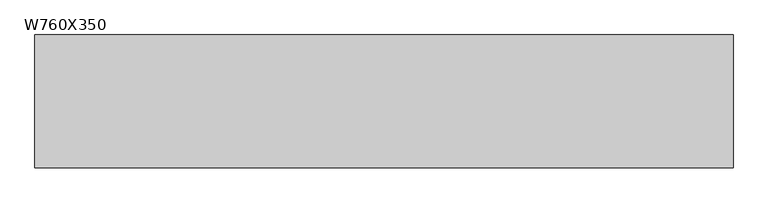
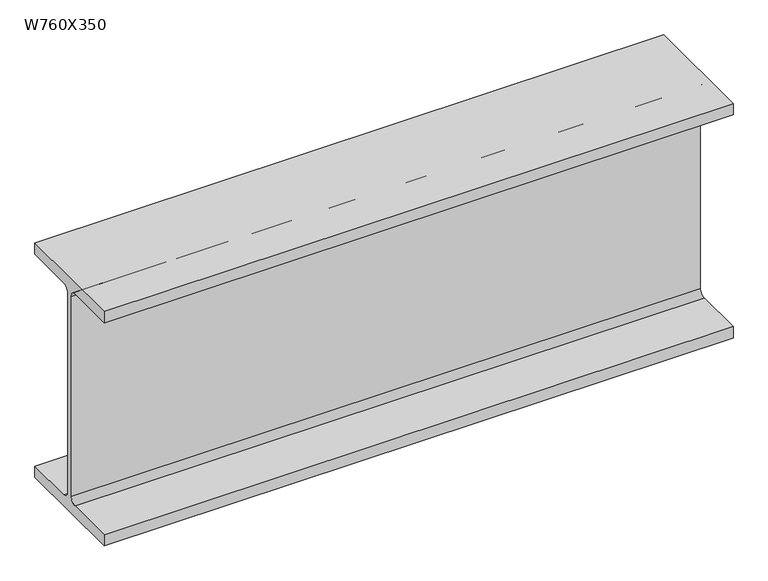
"""IFC4 building model written with IfcOpenShell, lengths in millimetres: beam geometry, M_W Shapes : W760X350."""

from ifc_helpers import new_model, si_unit, point, frame, frame_2d, origin, place, context, project, spatial, polyline, circle_curve, trimmed, segment, composite_curve, outline, extrude, source, transform, mapped, element, save


def w760x350_eeeee08b(model_context):
    return source(origin(), model_context, "Body", "SweptSolid", [
        extrude(outline(composite_curve([segment(polyline([(192.0, -359.4), (192.0, -397.5), (-192.0, -397.5), (-192.0, -359.4), (-30.65, -359.4)]), True, "CONTINUOUS"), segment(trimmed(circle_curve(frame_2d((-30.65, -339.3)), 20.1), [point((-30.65, -359.4))], [point((-10.55, -339.3))], True, "CARTESIAN"), True, "CONTINUOUS"), segment(polyline([(-10.55, -339.3), (-10.55, 339.3)]), True, "CONTINUOUS"), segment(trimmed(circle_curve(frame_2d((-30.65, 339.3)), 20.1), [point((-10.55, 339.3))], [point((-30.65, 359.4))], True, "CARTESIAN"), True, "CONTINUOUS"), segment(polyline([(-30.65, 359.4), (-192.0, 359.4), (-192.0, 397.5), (192.0, 397.5), (192.0, 359.4), (30.65, 359.4)]), True, "CONTINUOUS"), segment(trimmed(circle_curve(frame_2d((30.65, 339.3)), 20.1), [point((30.65, 359.4))], [point((10.55, 339.3))], True, "CARTESIAN"), True, "CONTINUOUS"), segment(polyline([(10.55, 339.3), (10.55, -339.3)]), True, "CONTINUOUS"), segment(trimmed(circle_curve(frame_2d((30.65, -339.3)), 20.1), [point((10.55, -339.3))], [point((30.65, -359.4))], True, "CARTESIAN"), True, "CONTINUOUS"), segment(polyline([(30.65, -359.4), (192.0, -359.4)]), True, "CONTINUOUS")], self_intersect=False)), frame((-1008.25, 0.0, 0.0), z_axis=(1.0, 0.0, 0.0), x_axis=(0.0, 1.0, 0.0)), (0.0, 0.0, 1.0), 2016.5),
    ])


if __name__ == "__main__":
    model = new_model("IFC4")
    model_context = context("Model", 3, world=origin())
    ifc_project = project(units=[si_unit("LENGTHUNIT", "METRE", prefix="MILLI")], contexts=[model_context])
    site = spatial("IfcSite", under=ifc_project)
    building = spatial("IfcBuilding", under=site)
    placement = place(None, origin())
    w760x350_shape = w760x350_eeeee08b(model_context)
    element("IfcBeam", 1, ObjectType="M_W Shapes : W760X350", at=placement, inside=building, context=model_context, shape_type="MappedRepresentation", body=[
        mapped(w760x350_shape, transform((0.0, 0.0, 0.0), x_axis=(1.0, 0.0, 0.0), y_axis=(0.0, 1.0, 0.0), z_axis=(0.0, 0.0, 1.0))),
    ])
    save(model, "model.ifc")
